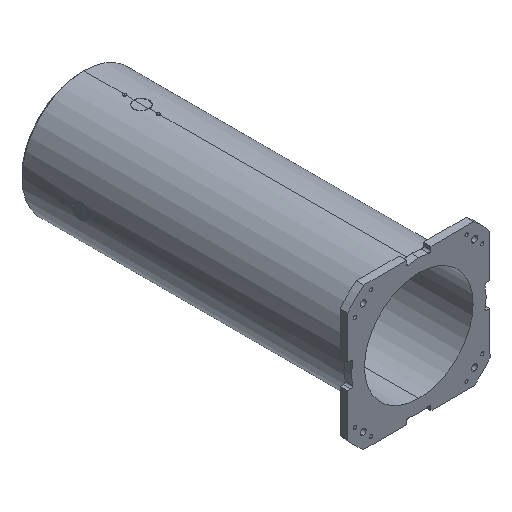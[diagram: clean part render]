
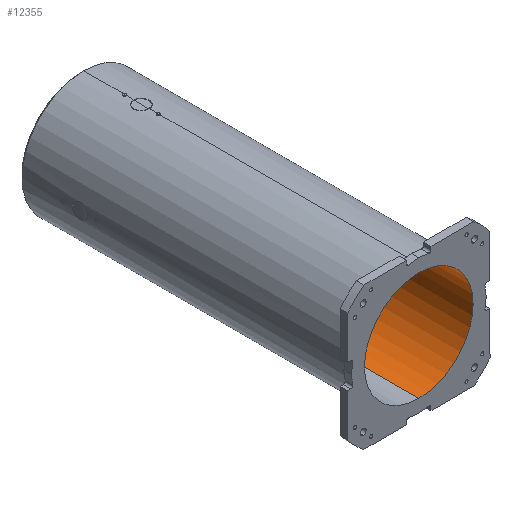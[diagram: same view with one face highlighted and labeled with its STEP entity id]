
A CAD part, isometric view. The second image highlights one B-rep face of the part: STEP entity #12355.
In plain terms, the highlighted cylindrical face has radius 145 mm (diameter 290 mm), a partial arc.
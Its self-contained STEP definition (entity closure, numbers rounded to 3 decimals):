
#100 = FACE_OUTER_BOUND ( 'NONE', #1281, .T. ) ;
#175 = CARTESIAN_POINT ( 'NONE',  ( 0., 0., 145. ) ) ;
#382 = VECTOR ( 'NONE', #994, 1000. ) ;
#431 = ORIENTED_EDGE ( 'NONE', *, *, #8082, .T. ) ;
#449 = LINE ( 'NONE', #4354, #11399 ) ;
#614 = EDGE_CURVE ( 'NONE', #9501, #3984, #9422, .T. ) ;
#774 = CIRCLE ( 'NONE', #2142, 145. ) ;
#994 = DIRECTION ( 'NONE',  ( 0., 1., 0. ) ) ;
#1281 = EDGE_LOOP ( 'NONE', ( #3224, #8933, #431, #8304 ) ) ;
#1879 = DIRECTION ( 'NONE',  ( 0., 1., 0. ) ) ;
#1935 = CYLINDRICAL_SURFACE ( 'NONE', #4268, 145. ) ;
#2142 = AXIS2_PLACEMENT_3D ( 'NONE', #4829, #1879, #9592 ) ;
#3224 = ORIENTED_EDGE ( 'NONE', *, *, #8556, .F. ) ;
#3451 = DIRECTION ( 'NONE',  ( 0., 1., 0. ) ) ;
#3632 = CARTESIAN_POINT ( 'NONE',  ( 0., 882., -145. ) ) ;
#3780 = VERTEX_POINT ( 'NONE', #8062 ) ;
#3984 = VERTEX_POINT ( 'NONE', #3632 ) ;
#3989 = DIRECTION ( 'NONE',  ( 0., 1., 0. ) ) ;
#4137 = LINE ( 'NONE', #175, #382 ) ;
#4268 = AXIS2_PLACEMENT_3D ( 'NONE', #5774, #3989, #9768 ) ;
#4354 = CARTESIAN_POINT ( 'NONE',  ( 0., 0., -145. ) ) ;
#4582 = CARTESIAN_POINT ( 'NONE',  ( 0., 0., -145. ) ) ;
#4829 = CARTESIAN_POINT ( 'NONE',  ( 0., 0., 0. ) ) ;
#5140 = CARTESIAN_POINT ( 'NONE',  ( 0., 882., 0. ) ) ;
#5520 = CARTESIAN_POINT ( 'NONE',  ( 0., 882., 145. ) ) ;
#5774 = CARTESIAN_POINT ( 'NONE',  ( 0., 0., 0. ) ) ;
#7460 = EDGE_CURVE ( 'NONE', #3780, #12548, #774, .T. ) ;
#8062 = CARTESIAN_POINT ( 'NONE',  ( 0., 0., 145. ) ) ;
#8082 = EDGE_CURVE ( 'NONE', #3780, #9501, #4137, .T. ) ;
#8304 = ORIENTED_EDGE ( 'NONE', *, *, #614, .T. ) ;
#8556 = EDGE_CURVE ( 'NONE', #12548, #3984, #449, .T. ) ;
#8933 = ORIENTED_EDGE ( 'NONE', *, *, #7460, .F. ) ;
#9422 = CIRCLE ( 'NONE', #10038, 145. ) ;
#9501 = VERTEX_POINT ( 'NONE', #5520 ) ;
#9592 = DIRECTION ( 'NONE',  ( 0., 0., 1. ) ) ;
#9768 = DIRECTION ( 'NONE',  ( 0., 0., 1. ) ) ;
#9956 = DIRECTION ( 'NONE',  ( 0., 1., 0. ) ) ;
#10038 = AXIS2_PLACEMENT_3D ( 'NONE', #5140, #9956, #11048 ) ;
#11048 = DIRECTION ( 'NONE',  ( 0., 0., 1. ) ) ;
#11399 = VECTOR ( 'NONE', #3451, 1000. ) ;
#12355 = ADVANCED_FACE ( 'NONE', ( #100 ), #1935, .F. ) ;
#12548 = VERTEX_POINT ( 'NONE', #4582 ) ;
